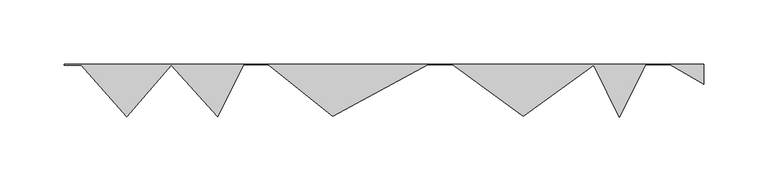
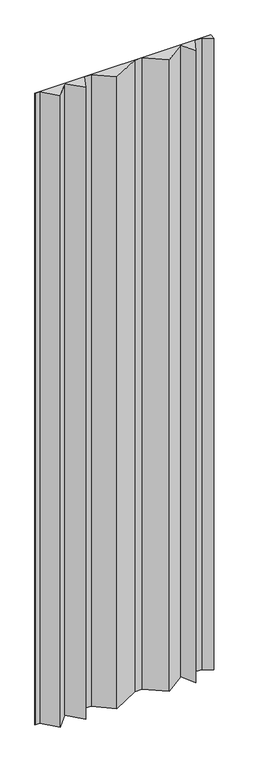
"""IFC4 building model written with IfcOpenShell, lengths in millimetres: plate geometry, ATELIERS 3S_GLACE BOSSONS 900_VERTICAL : AZURO."""

import ifcopenshell
import ifcopenshell.guid

model = None  # the IFC model being written
_history = None  # IfcOwnerHistory: only IFC2X3 demands one
_inside = {}  # id of a spatial element -> (the spatial element, [elements in it])
_under = {}  # id of a project, library or spatial element -> (it, [spatial elements below it])
_declared = {}  # id of a project -> (the project, [libraries it declares])
_typed = {}  # id of a type object -> (the type object, [elements of that type])
_made_of = {}  # id of a material, layer set ... -> (it, [elements and type objects made of it])


def new_model(schema):
    """Start an empty IFC model of exactly this schema.

    Asked for "IFC4X3", IfcOpenShell would pick the latest addendum, in which some entities
    have other attributes; the version numbers below select the first issue.
    IFC2X3 requires an IfcOwnerHistory on every rooted entity: one is made here for all.
    """
    global model, _history
    if schema == "IFC4X3":
        model = ifcopenshell.file(schema_version=(4, 3, 0, 0))
    else:
        model = ifcopenshell.file(schema=schema)
    _inside.clear()
    _under.clear()
    _declared.clear()
    _typed.clear()
    _made_of.clear()
    _history = None
    if model.schema == "IFC2X3":
        org = make("IfcOrganization", Name="unknown")
        user = make(
            "IfcPersonAndOrganization",
            ThePerson=make("IfcPerson", FamilyName="unknown"),
            TheOrganization=org,
        )
        app = make(
            "IfcApplication",
            ApplicationDeveloper=org,
            Version="unknown",
            ApplicationFullName="unknown",
            ApplicationIdentifier="unknown",
        )
        _history = make(
            "IfcOwnerHistory",
            OwningUser=user,
            OwningApplication=app,
            ChangeAction="ADDED",
            CreationDate=0,
        )
    return model


def make(cls, **values):
    """One entity of the class cls with the attributes given. An attribute that is None is left unset."""
    return model.create_entity(
        cls, **{name: value for name, value in values.items() if value is not None}
    )


def rooted(cls, **values):
    """An entity with a GlobalId (a new one), such as an element, a storey or a relation."""
    return make(cls, GlobalId=ifcopenshell.guid.new(), OwnerHistory=_history, **values)


def si_unit(unit_type, name, prefix=None):
    """IfcSIUnit, for example si_unit("LENGTHUNIT", "METRE", prefix="MILLI")."""
    return make("IfcSIUnit", UnitType=unit_type, Prefix=prefix, Name=name)


def assignment(units):
    """IfcUnitAssignment: the units of a project."""
    return None if units is None else make("IfcUnitAssignment", Units=units)


def point(xyz):
    """IfcCartesianPoint."""
    return None if xyz is None else make("IfcCartesianPoint", Coordinates=xyz)


def direction(xyz):
    """IfcDirection."""
    return None if xyz is None else make("IfcDirection", DirectionRatios=xyz)


def frame(location, z_axis=None, x_axis=None):
    """IfcAxis2Placement3D, a coordinate frame: its origin and axes. An axis left out is left unset."""
    return make(
        "IfcAxis2Placement3D",
        Location=point(location),
        Axis=direction(z_axis),
        RefDirection=direction(x_axis),
    )


def origin():
    """The frame at (0, 0, 0) with its axes left unset."""
    return frame((0.0, 0.0, 0.0))


def origin_with_axes():
    """The frame at (0, 0, 0) with the z axis (0, 0, 1) and the x axis (1, 0, 0) written out."""
    return frame((0.0, 0.0, 0.0), z_axis=(0.0, 0.0, 1.0), x_axis=(1.0, 0.0, 0.0))


def place(relative_to, where):
    """IfcLocalPlacement: puts the frame where relative to a parent placement (None: the world)."""
    return make(
        "IfcLocalPlacement", PlacementRelTo=relative_to, RelativePlacement=where
    )


def context(
    kind, dimensions, precision=None, world=None, true_north=None, identifier=None
):
    """IfcGeometricRepresentationContext, for example the 3D "Model" context."""
    return make(
        "IfcGeometricRepresentationContext",
        ContextIdentifier=identifier,
        ContextType=kind,
        CoordinateSpaceDimension=dimensions,
        Precision=precision,
        WorldCoordinateSystem=world,
        TrueNorth=true_north,
    )


def project(units=None, contexts=None):
    """IfcProject with its units and contexts."""
    return rooted(
        "IfcProject",
        Name="project",
        RepresentationContexts=contexts,
        UnitsInContext=assignment(units),
    )


def spatial(cls, under=None, at=None, **own):
    """A site, building, storey or space (cls), placed at a placement, below another one or the project."""
    s = rooted(cls, ObjectPlacement=at, **own)
    if under is not None:
        _under.setdefault(under.id(), (under, []))[1].append(s)
    return s


def polyline(points):
    """IfcPolyline through the points."""
    return make("IfcPolyline", Points=[point(p) for p in points])


def outline(outer, holes=None, kind="AREA"):
    """IfcArbitraryClosedProfileDef: a profile drawn as a closed curve; with holes, ...WithVoids."""
    if holes is None:
        return make("IfcArbitraryClosedProfileDef", ProfileType=kind, OuterCurve=outer)
    return make(
        "IfcArbitraryProfileDefWithVoids",
        ProfileType=kind,
        OuterCurve=outer,
        InnerCurves=holes,
    )


def extrude(swept, where, along, depth):
    """IfcExtrudedAreaSolid: the profile swept, set in the frame where, extruded along a direction by depth."""
    return make(
        "IfcExtrudedAreaSolid",
        SweptArea=swept,
        Position=where,
        ExtrudedDirection=direction(along),
        Depth=depth,
    )


def shape(context_of_items, identifier, shape_type, items):
    """IfcShapeRepresentation: the items that make up one representation, for example the "Body"."""
    return make(
        "IfcShapeRepresentation",
        ContextOfItems=context_of_items,
        RepresentationIdentifier=identifier,
        RepresentationType=shape_type,
        Items=items,
    )


def source(mapping_origin, context_of_items, identifier, shape_type, items):
    """IfcRepresentationMap: a shape defined once, which mapped items show again and again."""
    return make(
        "IfcRepresentationMap",
        MappingOrigin=mapping_origin,
        MappedRepresentation=shape(context_of_items, identifier, shape_type, items),
    )


def transform(
    local_origin,
    x_axis=None,
    y_axis=None,
    z_axis=None,
    scale=None,
    scale2=None,
    scale3=None,
    uniform=True,
):
    """IfcCartesianTransformationOperator3D, or its non-uniform kind. x_axis, y_axis, z_axis: its Axis1, 2, 3."""
    if uniform:
        return make(
            "IfcCartesianTransformationOperator3D",
            Axis1=direction(x_axis),
            Axis2=direction(y_axis),
            LocalOrigin=point(local_origin),
            Scale=scale,
            Axis3=direction(z_axis),
        )
    return make(
        "IfcCartesianTransformationOperator3DnonUniform",
        Axis1=direction(x_axis),
        Axis2=direction(y_axis),
        LocalOrigin=point(local_origin),
        Scale=scale,
        Axis3=direction(z_axis),
        Scale2=scale2,
        Scale3=scale3,
    )


def mapped(mapping_source, mapping_target):
    """IfcMappedItem: shows the shape of a source again, moved by a transform."""
    return make(
        "IfcMappedItem", MappingSource=mapping_source, MappingTarget=mapping_target
    )


def made_of(thing, what):
    """Note that an element or type object is made of a material, layer set ...; save() writes the relation."""
    if what is not None:
        _made_of.setdefault(what.id(), (what, []))[1].append(thing)
    return thing


def element(
    cls,
    number,
    at=None,
    inside=None,
    cuts=None,
    type_object=None,
    material=None,
    context=None,
    identifier="Body",
    shape_type=None,
    held_by="IfcProductDefinitionShape",
    body=None,
    shapes=None,
    **own,
):
    """One element of the class cls, such as IfcWall. Its Tag is "e" and its number.

    at: its placement. inside: the storey or other place that contains it. cuts: it is an
    opening in that element (IfcRelVoidsElement). A single representation is given by context,
    identifier, shape_type and body (its items); several are given by shapes. held_by: the class
    of the entity that holds the representations. save() writes the other relations.
    """
    e = rooted(cls, Tag="e%d" % number, ObjectPlacement=at, **own)
    if body is not None:
        shapes = [shape(context, identifier, shape_type, body)]
    if shapes is not None:
        e.Representation = make(held_by, Representations=shapes)
    if inside is not None:
        _inside.setdefault(inside.id(), (inside, []))[1].append(e)
    if cuts is not None:
        rooted(
            "IfcRelVoidsElement", RelatingBuildingElement=cuts, RelatedOpeningElement=e
        )
    if type_object is not None:
        _typed.setdefault(type_object.id(), (type_object, []))[1].append(e)
    return made_of(e, material)


def aggregate(whole, parts):
    """IfcRelAggregates: a whole, such as a stair, and the parts it consists of."""
    return rooted("IfcRelAggregates", RelatingObject=whole, RelatedObjects=parts)


def save(model, path):
    """Write the relations noted so far, then the file.

    IfcRelAggregates (storeys below a building ...), IfcRelContainedInSpatialStructure (elements
    in a storey), IfcRelDefinesByType, IfcRelAssociatesMaterial and IfcRelDeclares: one each for
    every whole, place, type object, material and project.
    """
    for whole, parts in _under.values():
        aggregate(whole, parts)
    for where, things in _inside.values():
        rooted(
            "IfcRelContainedInSpatialStructure",
            RelatedElements=things,
            RelatingStructure=where,
        )
    for kind, things in _typed.values():
        rooted("IfcRelDefinesByType", RelatedObjects=things, RelatingType=kind)
    for what, things in _made_of.values():
        rooted("IfcRelAssociatesMaterial", RelatedObjects=things, RelatingMaterial=what)
    for by, libraries in _declared.values():
        rooted("IfcRelDeclares", RelatingContext=by, RelatedDefinitions=libraries)
    model.write(path)


def plate_172fc0bb(model_context):
    return source(origin(), model_context, "Body", "SweptSolid", [
        extrude(outline(polyline([(-236.3428078, -0.8), (-249.9999998, -0.8), (-249.9999998, 0.0), (249.9999998, 0.0), (249.9999998, -15.7707394), (223.6882039, -0.75), (204.4172939, -0.75), (183.9537684, -41.677051), (163.6788864, -1.1272871), (108.9537684, -40.927373), (53.7098805, -0.75), (34.1434989, -0.75), (-40.124627, -40.894933), (-90.3970127, -0.75), (-109.5827061, -0.75), (-129.8675444, -41.3196766), (-166.0383305, -1.1299144), (-201.0462316, -41.1389442), (-236.3428078, -0.8)])), origin_with_axes(), (0.0, 0.0, 1.0), 1900.0),
    ])


if __name__ == "__main__":
    model = new_model("IFC4")
    model_context = context("Model", 3, world=origin())
    ifc_project = project(units=[si_unit("LENGTHUNIT", "METRE", prefix="MILLI")], contexts=[model_context])
    site = spatial("IfcSite", under=ifc_project)
    building = spatial("IfcBuilding", under=site)
    placement = place(None, origin())
    plate_shape = plate_172fc0bb(model_context)
    element("IfcPlate", 1, ObjectType="ATELIERS 3S_GLACE BOSSONS 900_VERTICAL : AZURO", at=placement, inside=building, context=model_context, shape_type="MappedRepresentation", body=[
        mapped(plate_shape, transform((0.0, 0.0, 0.0), x_axis=(1.0, 0.0, 0.0), y_axis=(0.0, 1.0, 0.0), z_axis=(0.0, 0.0, 1.0))),
    ])
    save(model, "model.ifc")
